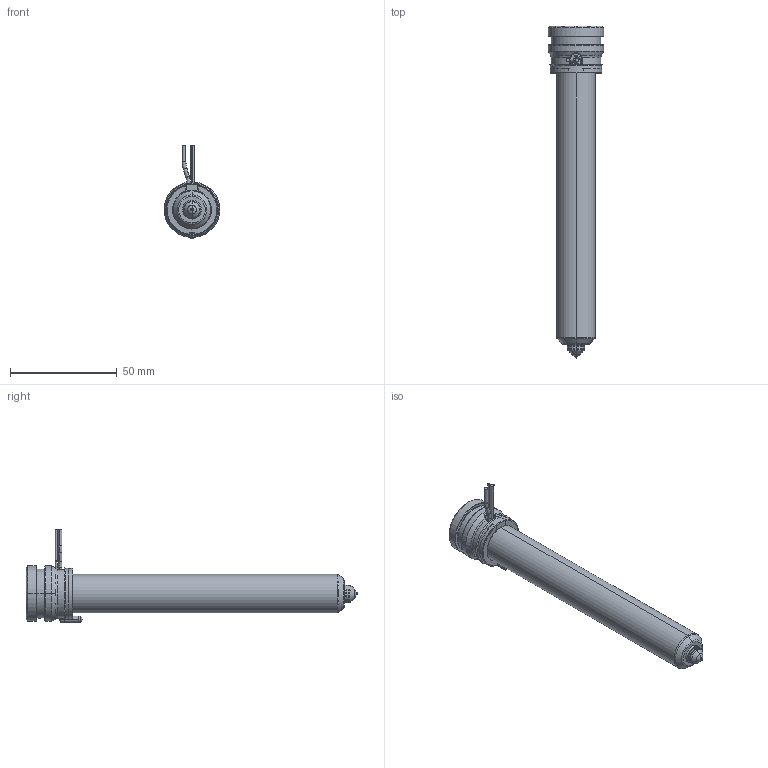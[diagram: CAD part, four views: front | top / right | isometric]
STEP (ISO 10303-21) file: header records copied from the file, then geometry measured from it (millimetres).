
FILE_DESCRIPTION((''),'2;1');
FILE_NAME('MPN-08-24-VX8-136-A','2026-02-05T12:00:16',('UPTIO'),('Thermoplay S.p.A.'),'CREO PARAMETRIC BY PTC INC, 2023494','CREO PARAMETRIC BY PTC INC, 2023494','');
FILE_SCHEMA(('CONFIG_CONTROL_DESIGN','SHAPE_APPEARANCE_LAYERS_GROUPS'));
Length unit declared in the file: millimetre
Products named in the file (1): MPN-08-24-VX8-136-A
Bounding box: 26 x 155.5 x 43.5 mm (x, y, z)
Volume: 29467.7 mm3; surface area: 38136.9 mm2
Topology: 2 solids, 3 shells, 545 faces, 1438 edges, 891 vertices
Faces by surface type: cylinder 180, plane 143, bspline 82, cone 62, torus 62, sphere 10, extrusion 6
Entity records: 29293 total; most frequent: CARTESIAN_POINT 13054, ORIENTED_EDGE 2860, DIRECTION 2578, EDGE_CURVE 1430, AXIS2_PLACEMENT_3D 1007, VERTEX_POINT 891, EDGE_LOOP 573, VECTOR 564
